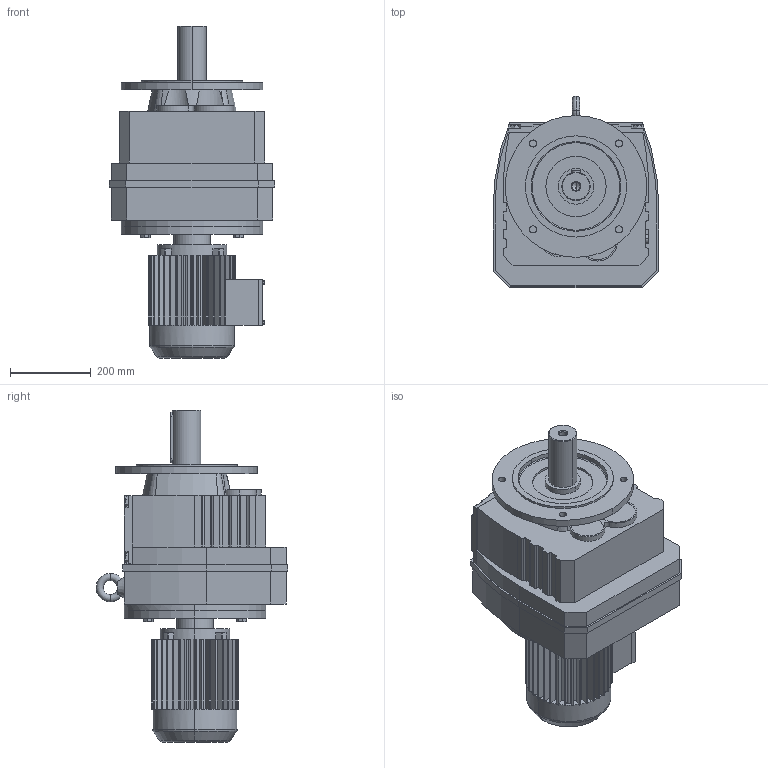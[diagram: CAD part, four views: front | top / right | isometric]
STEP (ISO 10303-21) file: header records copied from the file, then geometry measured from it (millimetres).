
FILE_DESCRIPTION(('Open CASCADE Model'),'2;1');
FILE_NAME('Open CASCADE Shape Model','2018-09-13T11:39:04',('Author'),( 'Open CASCADE'),'Open CASCADE STEP processor 6.3','Open CASCADE 6.3' ,'Unknown');
FILE_SCHEMA(('AUTOMOTIVE_DESIGN_CC2 { 1 2 10303 214 -1 1 5 4 }'));
Length unit declared in the file: millimetre
Products named in the file (3): 243_RF107-Y100M-350; RF37‵167_107_350.step; 萇儂_350_Y100M.step
Assembly tree (2 placements, depth 2):
  243_RF107-Y100M-350
    RF37‵167_107_350.step
    萇儂_350_Y100M.step
Bounding box: 409 x 473.5 x 820 mm (x, y, z)
Volume: 53897153.4 mm3; surface area: 1705442.7 mm2
Topology: 2 solids, 2 shells, 732 faces, 1943 edges, 1256 vertices
Faces by surface type: plane 509, cylinder 191, cone 20, torus 12
Entity records: 51509 total; most frequent: CARTESIAN_POINT 14490, DIRECTION 6443, ORIENTED_EDGE 3882, PCURVE 3882, DEFINITIONAL_REPRESENTATION 3882, LINE 3532, VECTOR 3532, EDGE_CURVE 1941
